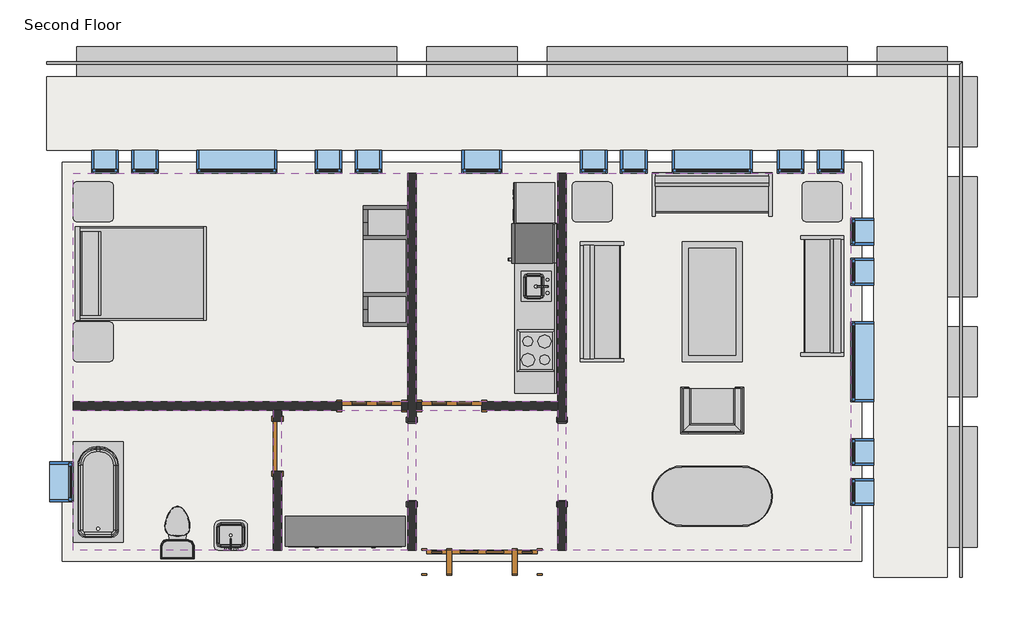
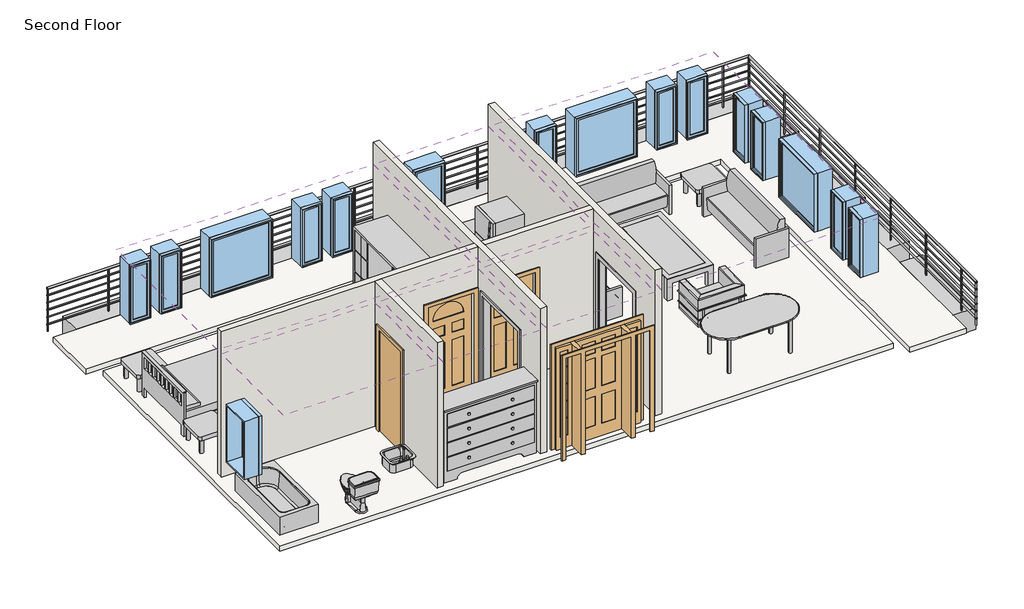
# One storey: 17 windows, 14 furniture elements, 6 coverings, 6 proxies, 5 walls, 4 doors, 4 flow terminals, 2 beams, 3 other elements.
"""IFC4 building model written with IfcOpenShell, lengths in millimetres."""

from ifc_helpers import new_model, si_unit, frame, origin, place, context, project, spatial, polyline, outline, extrude, faceted_brep, transform, mapped, element, save
from components import proxy_dfcd9396, proxy_3c49123c, proxy_7a545507, proxy_f44482cc, proxy_ec3341c2, door_829da954, door_2e3b4da2, door_4d6c7550, door_dba5aa2e, flow_terminal_41332a36, flow_terminal_62a433f7, toilet_domestic_3d_toilet_domestic_3d_f7549cf7, toilet_domestic_3d_toilet_domestic_3d_183bbd19, tub_rectangular_3d_tub_rectangular_3d_15036965, furniture_096e7f55, chair_corbu_chair_corbu_2764bdef, furniture_6db689a5, furniture_7c473f12, furniture_cf0b6580, furniture_a4ffab56, furniture_cd93a443, furniture_2c34a4f9, furniture_3a588284, handrail_pipe_d176f250, window_da97879f, window_d61ef850, window_60baf983, window_6eb97611

model = new_model("IFC4")

# Units and contexts
model_context = context("Model", 3, world=origin())
ifc_project = project(units=[si_unit("LENGTHUNIT", "METRE", prefix="MILLI")], contexts=[model_context])

# Site, building, storey
site = spatial("IfcSite", under=ifc_project)
building = spatial("IfcBuilding", under=site)
storey = spatial("IfcBuildingStorey", under=building, Name="Second Floor", Elevation=3048.0)

# Beams
placement = place(None, origin())
element("IfcBeam", 1, ObjectType="Concrete-Rectangular Beam : 18 x 18", at=placement, inside=storey, context=model_context, shape_type="SweptSolid", body=[
    extrude(outline(polyline([(2093.9410437, 12198.8316867), (2093.9410437, 11741.6316867), (1027.1410437, 11741.6316867), (1027.1410437, 12198.8316867), (2093.9410437, 12198.8316867)])), frame((0.0, 0.0, 2590.8), z_axis=(0.0, 0.0, 1.0), x_axis=(1.0, 0.0, 0.0)), (0.0, 0.0, 1.0), 457.2),
    extrude(outline(polyline([(-11164.8589563, 11741.6316867), (-11164.8589563, 12198.8316867), (-6288.0589563, 12198.8316867), (-6288.0589563, 11741.6316867), (-11164.8589563, 11741.6316867)])), frame((0.0, 0.0, 2590.8), z_axis=(0.0, 0.0, 1.0), x_axis=(1.0, 0.0, 0.0)), (0.0, 0.0, 1.0), 457.2),
    extrude(outline(polyline([(569.9410437, 12198.8316867), (569.9410437, 11741.6316867), (-4002.0589563, 11741.6316867), (-4002.0589563, 12198.8316867), (569.9410437, 12198.8316867)])), frame((0.0, 0.0, 2590.8), z_axis=(0.0, 0.0, 1.0), x_axis=(1.0, 0.0, 0.0)), (0.0, 0.0, 1.0), 457.2),
    extrude(outline(polyline([(-4459.2589563, 12198.8316867), (-4459.2589563, 11741.6316867), (-5830.8589563, 11741.6316867), (-5830.8589563, 12198.8316867), (-4459.2589563, 12198.8316867)])), frame((0.0, 0.0, 2590.8), z_axis=(0.0, 0.0, 1.0), x_axis=(1.0, 0.0, 0.0)), (0.0, 0.0, 1.0), 457.2),
])
element("IfcBeam", 2, ObjectType="Concrete-Rectangular Beam : 18 x 18", at=placement, inside=storey, context=model_context, shape_type="SweptSolid", body=[
    extrude(outline(polyline([(2093.9410437, 11741.6316867), (2551.1410437, 11741.6316867), (2551.1410437, 10674.8316867), (2093.9410437, 10674.8316867), (2093.9410437, 11741.6316867)])), frame((0.0, 0.0, 2590.8), z_axis=(0.0, 0.0, 1.0), x_axis=(1.0, 0.0, 0.0)), (0.0, 0.0, 1.0), 457.2),
    extrude(outline(polyline([(2551.1410437, 4578.8316867), (2093.9410437, 4578.8316867), (2093.9410437, 6407.6316867), (2551.1410437, 6407.6316867), (2551.1410437, 4578.8316867)])), frame((0.0, 0.0, 2590.8), z_axis=(0.0, 0.0, 1.0), x_axis=(1.0, 0.0, 0.0)), (0.0, 0.0, 1.0), 457.2),
    extrude(outline(polyline([(2093.9410437, 10217.6316867), (2551.1410437, 10217.6316867), (2551.1410437, 8388.8316867), (2093.9410437, 8388.8316867), (2093.9410437, 10217.6316867)])), frame((0.0, 0.0, 2590.8), z_axis=(0.0, 0.0, 1.0), x_axis=(1.0, 0.0, 0.0)), (0.0, 0.0, 1.0), 457.2),
    extrude(outline(polyline([(2093.9410437, 7931.6316867), (2551.1410437, 7931.6316867), (2551.1410437, 6864.8316867), (2093.9410437, 6864.8316867), (2093.9410437, 7931.6316867)])), frame((0.0, 0.0, 2590.8), z_axis=(0.0, 0.0, 1.0), x_axis=(1.0, 0.0, 0.0)), (0.0, 0.0, 1.0), 457.2),
])

# Proxies
proxy_shape = proxy_dfcd9396(model_context)
element("IfcBuildingElementProxy", 3, Name="Cook Top-4 Unit2 : 22\" x 20\"", ObjectType="Cook Top-4 Unit2 : 22\" x 20\"", at=placement, inside=storey, context=model_context, shape_type="MappedRepresentation", body=[
    mapped(proxy_shape, transform((-4167.1589563, 7568.5224391, 3048.0), x_axis=(0.0, 1.0000000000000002, 0.0), y_axis=(-1.0000000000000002, 0.0, 0.0), z_axis=(0.0, 0.0, 1.0))),
])
proxy_2_shape = proxy_3c49123c(model_context)
element("IfcBuildingElementProxy", 4, Name="Dishwasher : 24\" x 24\" x 34\"", ObjectType="Dishwasher : 24\" x 24\" x 34\"", at=placement, inside=storey, context=model_context, shape_type="MappedRepresentation", body=[
    mapped(proxy_2_shape, transform((-4459.0085211, 9434.1049706, 3048.0), x_axis=(0.0, 1.0000000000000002, 0.0), y_axis=(-1.0000000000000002, 0.0, 0.0), z_axis=(0.0, 0.0, 1.0))),
])
proxy_3_shape = proxy_7a545507(model_context)
element("IfcBuildingElementProxy", 5, Name="Kitchenette - Medium : 8'6\"", ObjectType="Kitchenette - Medium : 8'6\"", at=placement, inside=storey, context=model_context, shape_type="MappedRepresentation", body=[
    mapped(proxy_3_shape, transform((-3862.3589563, 8197.4847342, 3048.0), x_axis=(0.0, 1.0000000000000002, 0.0), y_axis=(-1.0000000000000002, 0.0, 0.0), z_axis=(0.0, 0.0, 1.0))),
])
proxy_4_shape = proxy_f44482cc(model_context)
element("IfcBuildingElementProxy", 6, Name="Opening-Cased : 48\" x 84\"", ObjectType="Opening-Cased : 48\" x 84\"", at=placement, inside=storey, context=model_context, shape_type="MappedRepresentation", body=[
    mapped(proxy_4_shape, transform((-3773.4589563, 5882.4203434, 3048.0), x_axis=(0.0, 1.0, 0.0), y_axis=(-1.0, 0.0, 0.0), z_axis=(0.0, 0.0, 1.0))),
])
element("IfcBuildingElementProxy", 7, Name="Opening-Cased : 48\" x 84\"", ObjectType="Opening-Cased : 48\" x 84\"", at=placement, inside=storey, context=model_context, shape_type="MappedRepresentation", body=[
    mapped(proxy_4_shape, transform((-6059.4589563, 5866.04303, 3048.0), x_axis=(0.0, -1.0, 0.0), y_axis=(1.0, 0.0, 0.0), z_axis=(0.0, 0.0, 1.0))),
])
proxy_5_shape = proxy_ec3341c2(model_context)
element("IfcBuildingElementProxy", 8, Name="Refrigerator : 24\" x 25\" LH", ObjectType="Refrigerator : 24\" x 25\" LH", at=placement, inside=storey, context=model_context, shape_type="MappedRepresentation", body=[
    mapped(proxy_5_shape, transform((-4212.8079278, 9200.4724391, 3048.0), x_axis=(0.0, 1.0000000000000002, 0.0), y_axis=(-1.0000000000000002, 0.0, 0.0), z_axis=(0.0, 0.0, 1.0))),
])

# Coverings
element("IfcCovering", 9, ObjectType="GWB on Mtl. Stud", at=placement, inside=storey, context=model_context, shape_type="SweptSolid", body=[
    extrude(outline(polyline([(-11217.2464563, 10270.0191867), (-6122.9589563, 10270.0191867), (-6122.9589563, 6787.0441867), (-11217.2464563, 6787.0441867), (-11217.2464563, 10270.0191867)])), frame((0.0, 0.0, 5638.8), z_axis=(0.0, 0.0, 1.0), x_axis=(1.0, 0.0, 0.0)), (0.0, 0.0, 1.0), 107.95),
])
element("IfcCovering", 10, ObjectType="GWB on Mtl. Stud", at=placement, inside=storey, context=model_context, shape_type="SweptSolid", body=[
    extrude(outline(polyline([(-5995.9589563, 6787.0441867), (-5995.9589563, 10270.0191867), (-3836.9589563, 10270.0191867), (-3836.9589563, 6787.0441867), (-5995.9589563, 6787.0441867)])), frame((0.0, 0.0, 5638.8), z_axis=(0.0, 0.0, 1.0), x_axis=(1.0, 0.0, 0.0)), (0.0, 0.0, 1.0), 107.95),
])
element("IfcCovering", 11, ObjectType="GWB on Mtl. Stud", at=placement, inside=storey, context=model_context, shape_type="SweptSolid", body=[
    extrude(outline(polyline([(-3709.9589563, 4526.4441867), (-3709.9589563, 10270.0191867), (622.3285437, 10270.0191867), (622.3285437, 4526.4441867), (-3709.9589563, 4526.4441867)])), frame((0.0, 0.0, 5638.8), z_axis=(0.0, 0.0, 1.0), x_axis=(1.0, 0.0, 0.0)), (0.0, 0.0, 1.0), 107.95),
])
element("IfcCovering", 12, ObjectType="GWB on Mtl. Stud", at=placement, inside=storey, context=model_context, shape_type="SweptSolid", body=[
    extrude(outline(polyline([(-3836.9589563, 4526.4441867), (-5995.9589563, 4526.4441867), (-5995.9589563, 6660.0441867), (-3836.9589563, 6660.0441867), (-3836.9589563, 4526.4441867)])), frame((0.0, 0.0, 5638.8), z_axis=(0.0, 0.0, 1.0), x_axis=(1.0, 0.0, 0.0)), (0.0, 0.0, 1.0), 107.95),
])
element("IfcCovering", 13, ObjectType="GWB on Mtl. Stud", at=placement, inside=storey, context=model_context, shape_type="SweptSolid", body=[
    extrude(outline(polyline([(-8169.2464563, 6660.0441867), (-8169.2464563, 4526.4441867), (-11217.2464563, 4526.4441867), (-11217.2464563, 6660.0441867), (-8169.2464563, 6660.0441867)])), frame((0.0, 0.0, 5638.8), z_axis=(0.0, 0.0, 1.0), x_axis=(1.0, 0.0, 0.0)), (0.0, 0.0, 1.0), 107.95),
])
element("IfcCovering", 14, ObjectType="GWB on Mtl. Stud", at=placement, inside=storey, context=model_context, shape_type="SweptSolid", body=[
    extrude(outline(polyline([(-6122.9589563, 4526.4441867), (-8042.2464563, 4526.4441867), (-8042.2464563, 6660.0441867), (-6122.9589563, 6660.0441867), (-6122.9589563, 4526.4441867)])), frame((0.0, 0.0, 5638.8), z_axis=(0.0, 0.0, 1.0), x_axis=(1.0, 0.0, 0.0)), (0.0, 0.0, 1.0), 107.95),
])

# Doors
door_shape = door_829da954(model_context)
element("IfcDoor", 15, ObjectType="Single-Decorative 2 : 36\" x 84\"", at=placement, inside=storey, context=model_context, shape_type="MappedRepresentation", body=[
    mapped(door_shape, transform((-5449.8589563, 6723.5441867, 3048.0), x_axis=(-1.0, 0.0, 0.0), y_axis=(0.0, -1.0, 0.0), z_axis=(0.0, 0.0, 1.0))),
])
door_2_shape = door_2e3b4da2(model_context)
element("IfcDoor", 16, ObjectType="Single-Decorative 2 : 36\" x 84\"", at=placement, inside=storey, context=model_context, shape_type="MappedRepresentation", body=[
    mapped(door_2_shape, transform((-6669.0589563, 6723.5441867, 3048.0), x_axis=(1.0, 0.0, 0.0), y_axis=(0.0, 1.0, 0.0), z_axis=(0.0, 0.0, 1.0))),
])
door_3_shape = door_4d6c7550(model_context)
element("IfcDoor", 17, ObjectType="Single-Flush : 30\" x 84\"", at=placement, inside=storey, context=model_context, shape_type="MappedRepresentation", body=[
    mapped(door_3_shape, transform((-8105.7464563, 6113.9441867, 3048.0), x_axis=(0.0, 1.0, 0.0), y_axis=(-1.0, 0.0, 0.0), z_axis=(0.0, 0.0, 1.0))),
])
door_4_shape = door_dba5aa2e(model_context)
element("IfcDoor", 18, ObjectType="Single-Raised Panel with Sidelights : 36\" x 84\"", at=placement, inside=storey, context=model_context, shape_type="MappedRepresentation", body=[
    mapped(door_4_shape, transform((-4992.6589563, 4350.2316867, 3048.0), x_axis=(-1.0, 0.0, 0.0), y_axis=(0.0, -1.0, 0.0), z_axis=(0.0, 0.0, 1.0))),
])

# Flow terminals
flow_terminal_shape = flow_terminal_41332a36(model_context)
element("IfcFlowTerminal", 19, ObjectType="Sink Kitchen-Island : 18\" x 18\"", at=placement, inside=storey, context=model_context, shape_type="MappedRepresentation", body=[
    mapped(flow_terminal_shape, transform((-4169.5043574, 8530.7331986, 3033.6), x_axis=(0.0, 1.0000000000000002, 0.0), y_axis=(-1.0000000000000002, 0.0, 0.0), z_axis=(0.0, 0.0, 1.0))),
])
flow_terminal_2_shape = flow_terminal_62a433f7(model_context)
element("IfcFlowTerminal", 20, ObjectType="Sink Vanity-Square : 20\" x 18\"", at=placement, inside=storey, context=model_context, shape_type="MappedRepresentation", body=[
    mapped(flow_terminal_2_shape, transform((-8801.2572158, 4706.5895878, 3048.0), x_axis=(-1.0, 0.0, 0.0), y_axis=(0.0, -1.0, 0.0), z_axis=(0.0, 0.0, 1.0))),
])
toilet_domestic_3d_toilet_domestic_3d_shape = toilet_domestic_3d_toilet_domestic_3d_f7549cf7(model_context)
toilet_domestic_3d_toilet_domestic_3d_2_shape = toilet_domestic_3d_toilet_domestic_3d_183bbd19(model_context)
element("IfcFlowTerminal", 21, ObjectType="Toilet-Domestic-3D : Toilet-Domestic-3D", at=placement, inside=storey, context=model_context, shape_type="MappedRepresentation", body=[
    mapped(toilet_domestic_3d_toilet_domestic_3d_shape, transform((-9629.7464563, 4894.7441867, 3048.0), x_axis=(-1.0, 0.0, 0.0), y_axis=(0.0, -1.0, 0.0), z_axis=(0.0, 0.0, 1.0))),
    mapped(toilet_domestic_3d_toilet_domestic_3d_2_shape, transform((-9629.7464563, 4894.7441867, 3048.0), x_axis=(-1.0, 0.0, 0.0), y_axis=(0.0, -1.0, 0.0), z_axis=(0.0, 0.0, 1.0))),
])
tub_rectangular_3d_tub_rectangular_3d_shape = tub_rectangular_3d_tub_rectangular_3d_15036965(model_context)
element("IfcFlowTerminal", 22, ObjectType="Tub-Rectangular-3D : Tub-Rectangular-3D", at=placement, inside=storey, context=model_context, shape_type="MappedRepresentation", body=[
    mapped(tub_rectangular_3d_tub_rectangular_3d_shape, transform((-11393.4589563, 5765.6346554, 3048.0), x_axis=(0.0, 1.0, 0.0), y_axis=(-1.0, 0.0, 0.0), z_axis=(0.0, 0.0, 1.0))),
])

# Furniture
furniture_shape = furniture_096e7f55(model_context)
element("IfcFurniture", 23, ObjectType="Bed-Shaker : Double 56\" x 78\"", at=placement, inside=storey, context=model_context, shape_type="MappedRepresentation", body=[
    mapped(furniture_shape, transform((-11172.0857802, 8763.4816867, 3048.0), x_axis=(0.0, 1.0, 0.0), y_axis=(-1.0, 0.0, 0.0), z_axis=(0.0, 0.0, 1.0))),
])
chair_corbu_chair_corbu_shape = chair_corbu_chair_corbu_2764bdef(model_context)
element("IfcFurniture", 24, ObjectType="Chair-Corbu : Chair-Corbu", at=placement, inside=storey, context=model_context, shape_type="MappedRepresentation", body=[
    mapped(chair_corbu_chair_corbu_shape, transform((-914.0851858, 7126.8212359, 3048.0), x_axis=(-1.0, 0.0, 0.0), y_axis=(0.0, -1.0, 0.0), z_axis=(0.0, 0.0, 1.0))),
])
furniture_2_shape = furniture_6db689a5(model_context)
element("IfcFurniture", 25, ObjectType="Counter Top w Sink Hole : 24\" Depth", at=placement, inside=storey, context=model_context, shape_type="MappedRepresentation", body=[
    mapped(furniture_2_shape, transform((-3862.3589563, 8121.2847342, 3033.6), x_axis=(0.0, 1.0000000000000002, 0.0), y_axis=(-1.0000000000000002, 0.0, 0.0), z_axis=(0.0, 0.0, 1.0))),
])
furniture_3_shape = furniture_7c473f12(model_context)
element("IfcFurniture", 26, ObjectType="Dresser : 72\" x 60\" x 18\"", at=placement, inside=storey, context=model_context, shape_type="MappedRepresentation", body=[
    mapped(furniture_3_shape, transform((-6806.2656965, 5181.7071408, 3048.0), x_axis=(1.0, 0.0, 0.0), y_axis=(0.0, 1.0, 0.0), z_axis=(0.0, 0.0, 1.0))),
])
furniture_4_shape = furniture_cf0b6580(model_context)
element("IfcFurniture", 27, ObjectType="Entertainment Center : 72\" x 72\" x 24\"", at=placement, inside=storey, context=model_context, shape_type="MappedRepresentation", body=[
    mapped(furniture_4_shape, transform((-6021.3589563, 8857.1441867, 3048.0), x_axis=(0.0, -1.0, 0.0), y_axis=(1.0, 0.0, 0.0), z_axis=(0.0, 0.0, 1.0))),
])
furniture_5_shape = furniture_a4ffab56(model_context)
element("IfcFurniture", 28, ObjectType="Sofa : 72\"", at=placement, inside=storey, context=model_context, shape_type="MappedRepresentation", body=[
    mapped(furniture_5_shape, transform((-3017.704858, 8242.2611949, 3048.0), x_axis=(0.0, 1.0, 0.0), y_axis=(-1.0, 0.0, 0.0), z_axis=(0.0, 0.0, 1.0))),
])
element("IfcFurniture", 29, ObjectType="Sofa : 72\"", at=placement, inside=storey, context=model_context, shape_type="MappedRepresentation", body=[
    mapped(furniture_5_shape, transform((-1557.8294481, 9801.5748071, 3048.0), x_axis=(1.0, 0.0, 0.0), y_axis=(0.0, 1.0, 0.0), z_axis=(0.0, 0.0, 1.0))),
])
element("IfcFurniture", 30, ObjectType="Sofa : 72\"", at=placement, inside=storey, context=model_context, shape_type="MappedRepresentation", body=[
    mapped(furniture_5_shape, transform((42.7869453, 8470.3146785, 3048.0), x_axis=(0.0, -1.0, 0.0), y_axis=(1.0, 0.0, 0.0), z_axis=(0.0, 0.0, 1.0))),
])
furniture_6_shape = furniture_cd93a443(model_context)
element("IfcFurniture", 31, ObjectType="Table-Coffee : 36\" x 72\" x 18\"", at=placement, inside=storey, context=model_context, shape_type="MappedRepresentation", body=[
    mapped(furniture_6_shape, transform((-1392.2478785, 8294.36592, 3048.0), x_axis=(0.0, 1.0, 0.0), y_axis=(-1.0, 0.0, 0.0), z_axis=(0.0, 0.0, 1.0))),
])
furniture_7_shape = furniture_2c34a4f9(model_context)
element("IfcFurniture", 32, ObjectType="Table-Dining Oval : 36\" x 72\"", at=placement, inside=storey, context=model_context, shape_type="MappedRepresentation", body=[
    mapped(furniture_7_shape, transform((-1085.6392842, 5710.0425473, 3048.0), x_axis=(1.0, 0.0, 0.0), y_axis=(0.0, 1.0, 0.0), z_axis=(0.0, 0.0, 1.0))),
])
furniture_8_shape = furniture_3a588284(model_context)
element("IfcFurniture", 33, ObjectType="Table-End : 24\" x 24\"", at=placement, inside=storey, context=model_context, shape_type="MappedRepresentation", body=[
    mapped(furniture_8_shape, transform((-119.5925866, 9684.2316867, 3048.0), x_axis=(1.0, 0.0, 0.0), y_axis=(0.0, 1.0, 0.0), z_axis=(0.0, 0.0, 1.0))),
])
element("IfcFurniture", 34, ObjectType="Table-End : 24\" x 24\"", at=placement, inside=storey, context=model_context, shape_type="MappedRepresentation", body=[
    mapped(furniture_8_shape, transform((-11220.9800866, 7550.6316867, 3048.0), x_axis=(1.0, 0.0, 0.0), y_axis=(0.0, 1.0, 0.0), z_axis=(0.0, 0.0, 1.0))),
])
element("IfcFurniture", 35, ObjectType="Table-End : 24\" x 24\"", at=placement, inside=storey, context=model_context, shape_type="MappedRepresentation", body=[
    mapped(furniture_8_shape, transform((-11220.9800866, 9684.2316867, 3048.0), x_axis=(1.0, 0.0, 0.0), y_axis=(0.0, 1.0, 0.0), z_axis=(0.0, 0.0, 1.0))),
])
element("IfcFurniture", 36, ObjectType="Table-End : 24\" x 24\"", at=placement, inside=storey, context=model_context, shape_type="MappedRepresentation", body=[
    mapped(furniture_8_shape, transform((-3624.7925866, 9684.2316867, 3048.0), x_axis=(1.0, 0.0, 0.0), y_axis=(0.0, 1.0, 0.0), z_axis=(0.0, 0.0, 1.0))),
])

# Railing
handrail_pipe_shape = handrail_pipe_d176f250(model_context)
element("IfcRailing", 37, ObjectType="Handrail - Pipe", at=placement, inside=storey, context=model_context, shape_type="MappedRepresentation", body=[
    mapped(handrail_pipe_shape, transform((0.0, 0.0, 0.0), x_axis=(1.0, 0.0, 0.0), y_axis=(0.0, 1.0, 0.0), z_axis=(0.0, 0.0, 1.0))),
])

# Slabs
element("IfcSlab", 38, ObjectType="LW Concrete on Metal Deck", at=placement, inside=storey, context=model_context, shape_type="SweptSolid", body=[
    extrude(outline(polyline([(787.4285437, 10435.1191867), (787.4285437, 4361.3441867), (-11382.3464563, 4361.3441867), (-11382.3464563, 10435.1191867), (787.4285437, 10435.1191867)])), frame((0.0, 0.0, 2943.225), z_axis=(0.0, 0.0, 1.0), x_axis=(1.0, 0.0, 0.0)), (0.0, 0.0, 1.0), 104.775),
])
element("IfcSlab", 39, ObjectType="LW Concrete on Metal Deck", at=placement, inside=storey, context=model_context, shape_type="SweptSolid", body=[
    extrude(outline(polyline([(-11622.0589563, 10622.4441867), (-11622.0589563, 11741.6316867), (2093.9410437, 11741.6316867), (2093.9410437, 4121.6316867), (974.7535437, 4121.6316867), (974.7535437, 10622.4441867), (-11622.0589563, 10622.4441867)])), frame((0.0, 0.0, 2943.225), z_axis=(0.0, 0.0, 1.0), x_axis=(1.0, 0.0, 0.0)), (0.0, 0.0, 1.0), 104.775),
])

# Walls
element("IfcWall", 40, ObjectType="Interior - 5\" Partition (2-hr)", at=placement, inside=storey, context=model_context, shape_type="Brep", body=[
    faceted_brep([(-3709.9589563, 10270.0191867, 3048.0), (-3709.9589563, 6483.8316867, 3048.0), (-3836.9589563, 6483.8316867, 3048.0), (-3836.9589563, 6660.0441867, 3048.0), (-3836.9589563, 6787.0441867, 3048.0), (-3836.9589563, 10270.0191867, 3048.0), (-3709.9589563, 5264.6316867, 3048.0), (-3709.9589563, 4526.4441867, 3048.0), (-3836.9589563, 4526.4441867, 3048.0), (-3836.9589563, 5264.6316867, 3048.0), (-3836.9589563, 10270.0191867, 6096.0), (-3836.9589563, 6787.0441867, 6096.0), (-3836.9589563, 6660.0441867, 6096.0), (-3836.9589563, 4526.4441867, 6096.0), (-3709.9589563, 4526.4441867, 6096.0), (-3709.9589563, 10270.0191867, 6096.0), (-3836.9589563, 6483.8316867, 5181.6), (-3836.9589563, 5264.6316867, 5181.6), (-3709.9589563, 6483.8316867, 5181.6), (-3709.9589563, 5264.6316867, 5181.6)], [[[0, 1, 2, 3, 4, 5]], [[6, 7, 8, 9]], [[10, 11, 12, 13, 14, 15]], [[5, 4, 3, 2, 16, 17, 9, 8, 13, 12, 11, 10]], [[18, 1, 0, 15, 14, 7, 6, 19]], [[5, 10, 15, 0]], [[13, 8, 7, 14]], [[9, 17, 19, 6]], [[16, 2, 1, 18]], [[17, 16, 18, 19]]]),
])
element("IfcWall", 41, ObjectType="Interior - 5\" Partition (2-hr)", at=placement, inside=storey, context=model_context, shape_type="Brep", body=[
    faceted_brep([(-6122.9589563, 4526.4441867, 3048.0), (-6122.9589563, 5264.6316867, 3048.0), (-5995.9589563, 5264.6316867, 3048.0), (-5995.9589563, 4526.4441867, 3048.0), (-6122.9589563, 6483.8316867, 3048.0), (-6122.9589563, 6660.0441867, 3048.0), (-6122.9589563, 6787.0441867, 3048.0), (-6122.9589563, 10270.0191867, 3048.0), (-5995.9589563, 10270.0191867, 3048.0), (-5995.9589563, 6787.0441867, 3048.0), (-5995.9589563, 6660.0441867, 3048.0), (-5995.9589563, 6483.8316867, 3048.0), (-6122.9589563, 10270.0191867, 6096.0), (-6122.9589563, 6787.0441867, 6096.0), (-6122.9589563, 6660.0441867, 6096.0), (-6122.9589563, 4526.4441867, 6096.0), (-5995.9589563, 4526.4441867, 6096.0), (-5995.9589563, 6660.0441867, 6096.0), (-5995.9589563, 6787.0441867, 6096.0), (-5995.9589563, 10270.0191867, 6096.0), (-6122.9589563, 5264.6316867, 5181.6), (-6122.9589563, 6483.8316867, 5181.6), (-5995.9589563, 5264.6316867, 5181.6), (-5995.9589563, 6483.8316867, 5181.6)], [[[0, 1, 2, 3]], [[4, 5, 6, 7, 8, 9, 10, 11]], [[12, 13, 14, 15, 16, 17, 18, 19]], [[20, 1, 0, 15, 14, 13, 12, 7, 6, 5, 4, 21]], [[3, 2, 22, 23, 11, 10, 9, 8, 19, 18, 17, 16]], [[7, 12, 19, 8]], [[15, 0, 3, 16]], [[11, 23, 21, 4]], [[22, 2, 1, 20]], [[23, 22, 20, 21]]]),
])
element("IfcWall", 42, ObjectType="Interior - 5\" Partition (2-hr)", at=placement, inside=storey, context=model_context, shape_type="Brep", body=[
    faceted_brep([(-6122.9589563, 6660.0441867, 3048.0), (-6211.8589563, 6660.0441867, 3048.0), (-6211.8589563, 6787.0441867, 3048.0), (-6122.9589563, 6787.0441867, 3048.0), (-7126.2589563, 6660.0441867, 3048.0), (-8042.2464563, 6660.0441867, 3048.0), (-8169.2464563, 6660.0441867, 3048.0), (-11217.2464563, 6660.0441867, 3048.0), (-11217.2464563, 6787.0441867, 3048.0), (-7126.2589563, 6787.0441867, 3048.0), (-11217.2464563, 6660.0441867, 6096.0), (-8169.2464563, 6660.0441867, 6096.0), (-8042.2464563, 6660.0441867, 6096.0), (-6122.9589563, 6660.0441867, 6096.0), (-6122.9589563, 6787.0441867, 6096.0), (-11217.2464563, 6787.0441867, 6096.0), (-6211.8589563, 6660.0441867, 5181.6), (-7126.2589563, 6660.0441867, 5181.6), (-6211.8589563, 6787.0441867, 5181.6), (-7126.2589563, 6787.0441867, 5181.6)], [[[0, 1, 2, 3]], [[4, 5, 6, 7, 8, 9]], [[10, 11, 12, 13, 14, 15]], [[16, 1, 0, 13, 12, 11, 10, 7, 6, 5, 4, 17]], [[3, 2, 18, 19, 9, 8, 15, 14]], [[13, 0, 3, 14]], [[7, 10, 15, 8]], [[18, 2, 1, 16]], [[19, 18, 16, 17]], [[9, 19, 17, 4]]]),
])
element("IfcWall", 43, ObjectType="Interior - 5\" Partition (2-hr)", at=placement, inside=storey, context=model_context, shape_type="SweptSolid", body=[
    extrude(outline(polyline([(6660.0441867, 3048.0), (6494.9441867, 3048.0), (6494.9441867, 5181.6), (5732.9441867, 5181.6), (5732.9441867, 3048.0), (4526.4441867, 3048.0), (4526.4441867, 6096.0), (6660.0441867, 6096.0), (6660.0441867, 3048.0)])), frame((-8169.2464563, 0.0, 0.0), z_axis=(1.0, 0.0, 0.0), x_axis=(0.0, 1.0, 0.0)), (0.0, 0.0, 1.0), 127.0),
])
element("IfcWall", 44, ObjectType="Interior - 5\" Partition (2-hr)", at=placement, inside=storey, context=model_context, shape_type="SweptSolid", body=[
    extrude(outline(polyline([(3048.0, -5995.9589563), (3048.0, -5907.0589563), (5181.6, -5907.0589563), (5181.6, -4992.6589563), (3048.0, -4992.6589563), (3048.0, -3836.9589563), (6096.0, -3836.9589563), (6096.0, -5995.9589563), (3048.0, -5995.9589563)])), frame((0.0, 6660.0441867, 0.0), z_axis=(0.0, 1.0, 0.0), x_axis=(0.0, 0.0, 1.0)), (0.0, 0.0, 1.0), 127.0),
])

# Windows
window_shape = window_da97879f(model_context)
element("IfcWindow", 45, ObjectType="Fixed : 16\" x 48\"", at=placement, inside=storey, context=model_context, shape_type="MappedRepresentation", body=[
    mapped(window_shape, transform((-10771.1589563, 10446.2316867, 3048.0), x_axis=(-1.0, 0.0, 0.0), y_axis=(0.0, -1.0, 0.0), z_axis=(0.0, 0.0, 1.0))),
])
element("IfcWindow", 46, ObjectType="Fixed : 16\" x 48\"", at=placement, inside=storey, context=model_context, shape_type="MappedRepresentation", body=[
    mapped(window_shape, transform((-10161.5589563, 10446.2316867, 3048.0), x_axis=(-1.0, 0.0, 0.0), y_axis=(0.0, -1.0, 0.0), z_axis=(0.0, 0.0, 1.0))),
])
element("IfcWindow", 47, ObjectType="Fixed : 16\" x 48\"", at=placement, inside=storey, context=model_context, shape_type="MappedRepresentation", body=[
    mapped(window_shape, transform((-3328.9589563, 10446.2316867, 3048.0), x_axis=(-1.0, 0.0, 0.0), y_axis=(0.0, -1.0, 0.0), z_axis=(0.0, 0.0, 1.0))),
])
element("IfcWindow", 48, ObjectType="Fixed : 16\" x 48\"", at=placement, inside=storey, context=model_context, shape_type="MappedRepresentation", body=[
    mapped(window_shape, transform((-2719.3589563, 10446.2316867, 3048.0), x_axis=(-1.0, 0.0, 0.0), y_axis=(0.0, -1.0, 0.0), z_axis=(0.0, 0.0, 1.0))),
])
element("IfcWindow", 49, ObjectType="Fixed : 16\" x 48\"", at=placement, inside=storey, context=model_context, shape_type="MappedRepresentation", body=[
    mapped(window_shape, transform((798.5410437, 9417.5316867, 3048.0), x_axis=(0.0, 1.0, 0.0), y_axis=(-1.0, 0.0, 0.0), z_axis=(0.0, 0.0, 1.0))),
])
element("IfcWindow", 50, ObjectType="Fixed : 16\" x 48\"", at=placement, inside=storey, context=model_context, shape_type="MappedRepresentation", body=[
    mapped(window_shape, transform((798.5410437, 8807.9316867, 3048.0), x_axis=(0.0, 1.0, 0.0), y_axis=(-1.0, 0.0, 0.0), z_axis=(0.0, 0.0, 1.0))),
])
window_2_shape = window_d61ef850(model_context)
element("IfcWindow", 51, ObjectType="Fixed : 16\" x 48\"", at=placement, inside=storey, context=model_context, shape_type="MappedRepresentation", body=[
    mapped(window_2_shape, transform((-6681.7589563, 10446.2316867, 3048.0), x_axis=(1.0, 0.0, 0.0), y_axis=(0.0, 1.0, 0.0), z_axis=(0.0, 0.0, 1.0))),
])
element("IfcWindow", 52, ObjectType="Fixed : 16\" x 48\"", at=placement, inside=storey, context=model_context, shape_type="MappedRepresentation", body=[
    mapped(window_2_shape, transform((-7291.3589563, 10446.2316867, 3048.0), x_axis=(1.0, 0.0, 0.0), y_axis=(0.0, 1.0, 0.0), z_axis=(0.0, 0.0, 1.0))),
])
element("IfcWindow", 53, ObjectType="Fixed : 16\" x 48\"", at=placement, inside=storey, context=model_context, shape_type="MappedRepresentation", body=[
    mapped(window_2_shape, transform((354.0410437, 10446.2316867, 3048.0), x_axis=(1.0, 0.0, 0.0), y_axis=(0.0, 1.0, 0.0), z_axis=(0.0, 0.0, 1.0))),
])
element("IfcWindow", 54, ObjectType="Fixed : 16\" x 48\"", at=placement, inside=storey, context=model_context, shape_type="MappedRepresentation", body=[
    mapped(window_2_shape, transform((-255.5589563, 10446.2316867, 3048.0), x_axis=(1.0, 0.0, 0.0), y_axis=(0.0, 1.0, 0.0), z_axis=(0.0, 0.0, 1.0))),
])
element("IfcWindow", 55, ObjectType="Fixed : 16\" x 48\"", at=placement, inside=storey, context=model_context, shape_type="MappedRepresentation", body=[
    mapped(window_2_shape, transform((798.5410437, 5378.9316867, 3048.0), x_axis=(0.0, -1.0, 0.0), y_axis=(1.0, 0.0, 0.0), z_axis=(0.0, 0.0, 1.0))),
])
element("IfcWindow", 56, ObjectType="Fixed : 16\" x 48\"", at=placement, inside=storey, context=model_context, shape_type="MappedRepresentation", body=[
    mapped(window_2_shape, transform((798.5410437, 5988.5316867, 3048.0), x_axis=(0.0, -1.0, 0.0), y_axis=(1.0, 0.0, 0.0), z_axis=(0.0, 0.0, 1.0))),
])
window_3_shape = window_60baf983(model_context)
element("IfcWindow", 57, ObjectType="Fixed : 24\" x 48\"", at=placement, inside=storey, context=model_context, shape_type="MappedRepresentation", body=[
    mapped(window_3_shape, transform((-5030.7589563, 10446.2316867, 3048.0), x_axis=(-1.0, 0.0, 0.0), y_axis=(0.0, -1.0, 0.0), z_axis=(0.0, 0.0, 1.0))),
])
element("IfcWindow", 58, ObjectType="Fixed : 24\" x 48\"", at=placement, inside=storey, context=model_context, shape_type="MappedRepresentation", body=[
    mapped(window_3_shape, transform((-11393.4589563, 5531.3316867, 3048.0), x_axis=(0.0, -1.0, 0.0), y_axis=(1.0, 0.0, 0.0), z_axis=(0.0, 0.0, 1.0))),
])
window_4_shape = window_6eb97611(model_context)
element("IfcWindow", 59, ObjectType="Fixed : 48\" x 48\"", at=placement, inside=storey, context=model_context, shape_type="MappedRepresentation", body=[
    mapped(window_4_shape, transform((-8764.5589563, 10446.2316867, 3048.0), x_axis=(-1.0, 0.0, 0.0), y_axis=(0.0, -1.0, 0.0), z_axis=(0.0, 0.0, 1.0))),
])
element("IfcWindow", 60, ObjectType="Fixed : 48\" x 48\"", at=placement, inside=storey, context=model_context, shape_type="MappedRepresentation", body=[
    mapped(window_4_shape, transform((-1525.5589563, 10446.2316867, 3048.0), x_axis=(-1.0, 0.0, 0.0), y_axis=(0.0, -1.0, 0.0), z_axis=(0.0, 0.0, 1.0))),
])
element("IfcWindow", 61, ObjectType="Fixed : 48\" x 48\"", at=placement, inside=storey, context=model_context, shape_type="MappedRepresentation", body=[
    mapped(window_4_shape, transform((798.5410437, 7436.3316867, 3048.0), x_axis=(0.0, 1.0, 0.0), y_axis=(-1.0, 0.0, 0.0), z_axis=(0.0, 0.0, 1.0))),
])

save(model, "model.ifc")
